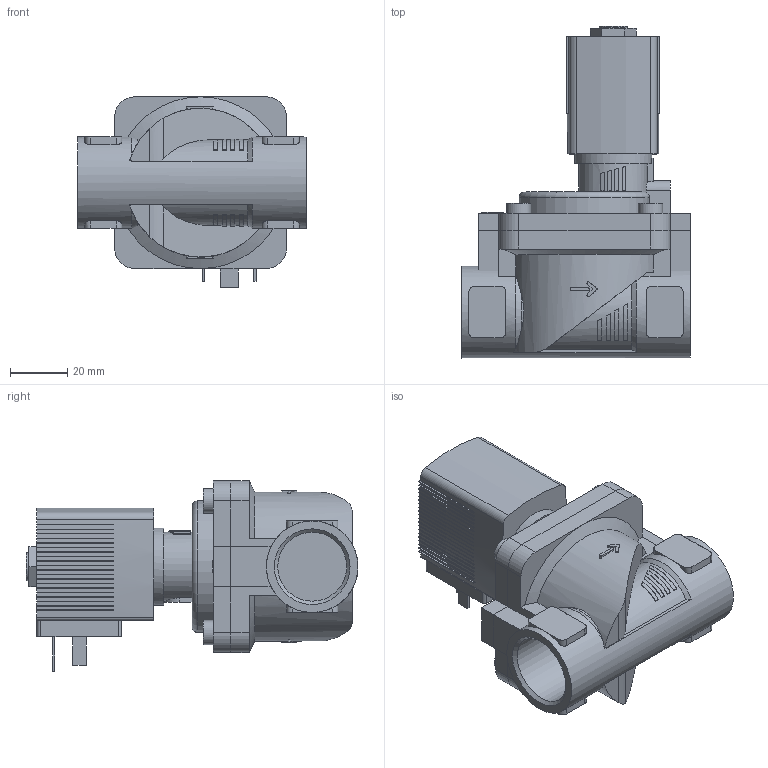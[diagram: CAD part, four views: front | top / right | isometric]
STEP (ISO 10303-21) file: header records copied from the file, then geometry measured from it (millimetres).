
FILE_DESCRIPTION(/* description */ ('STEP AP214'),/* implementation_level */ '2;1');
FILE_NAME(/* name */ '6281-238449-2_2-Way_Solenoid_Valve__Servo-assisted__General_Purpose',/* time_stamp */ '2024-06-24T10:44:20+02:00',/* author */ ('License CC BY-ND 4.0'),/* organization */ ('CADENAS'),/* preprocessor_version */ 'ST-DEVELOPER v19.3',/* originating_system */ 'PARTsolutions',/* authorisation */ ' ');
FILE_SCHEMA (('AUTOMOTIVE_DESIGN {1 0 10303 214 3 1 1}'));
Length unit declared in the file: millimetre
Products named in the file (4): 6281-238449-2/2-Way Solenoid Valve, Servo-assisted, General Purpose; 5281ev200VA2/2-Wege-Magnetventil mit Servomembran-Deckel   ; 6213-20G3/4VA-Gehaeuse-; AC10ex-5OO-Plan-Coil
Assembly tree (3 placements, depth 2):
  6281-238449-2/2-Way Solenoid Valve, Servo-assisted, General Purpose
    5281ev200VA2/2-Wege-Magnetventil mit Servomembran-Deckel   
    6213-20G3/4VA-Gehaeuse-
    AC10ex-5OO-Plan-Coil
Bounding box: 80 x 116 x 66.5 mm (x, y, z)
Volume: 198893.9 mm3; surface area: 43121.7 mm2
Topology: 3 solids, 3 shells, 539 faces, 1480 edges, 980 vertices
Faces by surface type: plane 434, cylinder 87, cone 17, torus 1
Full cylindrical faces by diameter (mm): 2.013 x1, 8.5 x4, 9.74 x1, 24.117 x2, 27 x1, 32 x1
Entity records: 19662 total; most frequent: CARTESIAN_POINT 3229, ORIENTED_EDGE 2910, DIRECTION 2792, EDGE_CURVE 1455, LINE 1064, VECTOR 1064, VERTEX_POINT 971, AXIS2_PLACEMENT_3D 864
